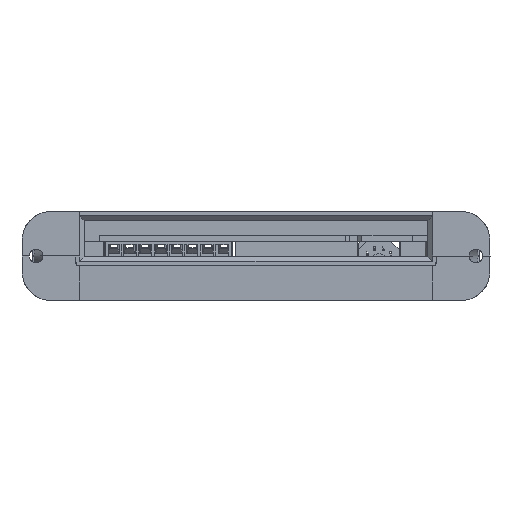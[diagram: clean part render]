
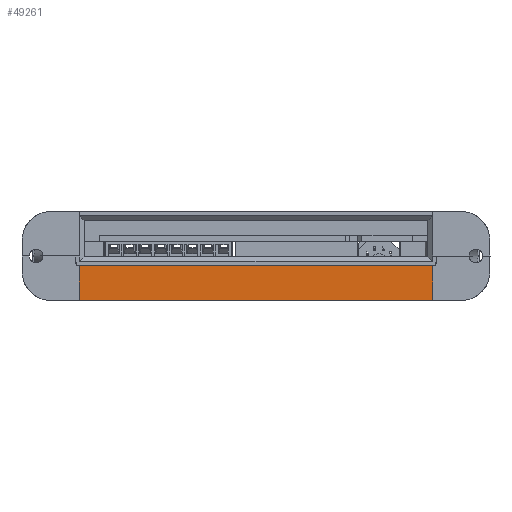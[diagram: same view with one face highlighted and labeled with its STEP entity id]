
A CAD part, left-side view. The second image highlights one B-rep face of the part: STEP entity #49261.
In plain terms, the highlighted planar face has unit normal (-1, 0, -0.018).
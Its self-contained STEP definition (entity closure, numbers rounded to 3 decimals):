
#601 = EDGE_CURVE ( 'NONE', #6930, #5962, #13871, .T. ) ;
#924 = EDGE_CURVE ( 'NONE', #44501, #5962, #21577, .T. ) ;
#2037 = VECTOR ( 'NONE', #11809, 1000. ) ;
#2330 = DIRECTION ( 'NONE',  ( -1., 0., -0.017 ) ) ;
#5370 = EDGE_CURVE ( 'NONE', #6930, #36783, #52893, .T. ) ;
#5962 = VERTEX_POINT ( 'NONE', #43994 ) ;
#6360 = PLANE ( 'NONE',  #47064 ) ;
#6930 = VERTEX_POINT ( 'NONE', #23473 ) ;
#7864 = CARTESIAN_POINT ( 'NONE',  ( -4.616, -68.8, 11. ) ) ;
#10200 = ORIENTED_EDGE ( 'NONE', *, *, #21193, .T. ) ;
#11809 = DIRECTION ( 'NONE',  ( -0.017, 0., 1. ) ) ;
#13871 = LINE ( 'NONE', #49373, #34548 ) ;
#19876 = VECTOR ( 'NONE', #26089, 1000. ) ;
#21193 = EDGE_CURVE ( 'NONE', #36783, #44501, #33708, .T. ) ;
#21577 = LINE ( 'NONE', #33841, #53277 ) ;
#22384 = FACE_OUTER_BOUND ( 'NONE', #49420, .T. ) ;
#23473 = CARTESIAN_POINT ( 'NONE',  ( -4.424, 18.8, 0. ) ) ;
#25392 = ORIENTED_EDGE ( 'NONE', *, *, #924, .T. ) ;
#26089 = DIRECTION ( 'NONE',  ( 0., -1., 0. ) ) ;
#27105 = CARTESIAN_POINT ( 'NONE',  ( -4.616, -80., 11. ) ) ;
#29914 = ORIENTED_EDGE ( 'NONE', *, *, #601, .F. ) ;
#30042 = CARTESIAN_POINT ( 'NONE',  ( -4.424, 30., 0. ) ) ;
#31228 = DIRECTION ( 'NONE',  ( 0.017, 0., -1. ) ) ;
#32125 = CARTESIAN_POINT ( 'NONE',  ( -4.424, -68.8, 0. ) ) ;
#33708 = LINE ( 'NONE', #7864, #2037 ) ;
#33841 = CARTESIAN_POINT ( 'NONE',  ( -4.575, -80., 8.6 ) ) ;
#34548 = VECTOR ( 'NONE', #45519, 1000. ) ;
#36035 = ORIENTED_EDGE ( 'NONE', *, *, #5370, .T. ) ;
#36783 = VERTEX_POINT ( 'NONE', #32125 ) ;
#38032 = DIRECTION ( 'NONE',  ( 0., 1., 0. ) ) ;
#43994 = CARTESIAN_POINT ( 'NONE',  ( -4.575, 18.8, 8.6 ) ) ;
#44501 = VERTEX_POINT ( 'NONE', #51758 ) ;
#45519 = DIRECTION ( 'NONE',  ( -0.017, 0., 1. ) ) ;
#47064 = AXIS2_PLACEMENT_3D ( 'NONE', #27105, #2330, #31228 ) ;
#49261 = ADVANCED_FACE ( 'NONE', ( #22384 ), #6360, .T. ) ;
#49373 = CARTESIAN_POINT ( 'NONE',  ( -4.616, 18.8, 11. ) ) ;
#49420 = EDGE_LOOP ( 'NONE', ( #36035, #10200, #25392, #29914 ) ) ;
#51758 = CARTESIAN_POINT ( 'NONE',  ( -4.575, -68.8, 8.6 ) ) ;
#52893 = LINE ( 'NONE', #30042, #19876 ) ;
#53277 = VECTOR ( 'NONE', #38032, 1000. ) ;
